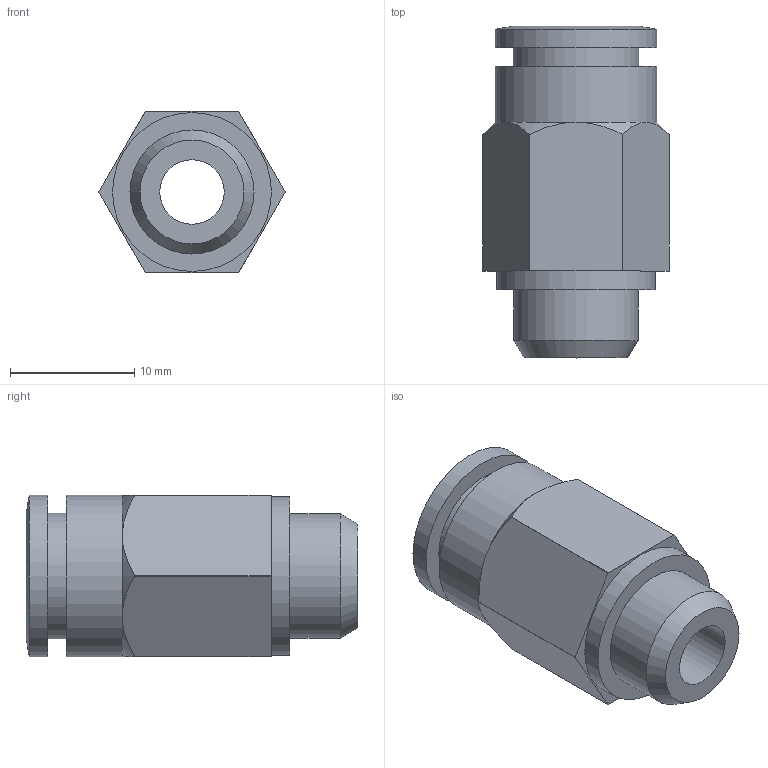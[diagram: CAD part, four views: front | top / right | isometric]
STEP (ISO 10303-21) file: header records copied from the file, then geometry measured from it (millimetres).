
FILE_DESCRIPTION((''),'2;1');
FILE_NAME('C:\Documents and Settings\rivolro1\Documenti\copia di Raccordi\T01XXXX\T010818.stp','2007-10-30T15:14:26',('Rivolro1'),(''),'Autodesk Inventor 2008','Autodesk Inventor 2008','');
FILE_SCHEMA(('AUTOMOTIVE_DESIGN { 1 0 10303 214 1 1 1 1 }'));
Length unit declared in the file: millimetre
Products named in the file (1): T010818
Bounding box: 15 x 26.75 x 13 mm (x, y, z)
Volume: 2143 mm3; surface area: 2005.1 mm2
Topology: 1 solids, 1 shells, 34 faces, 72 edges, 45 vertices
Faces by surface type: plane 13, cylinder 12, cone 8, bspline 1
Full cylindrical faces by diameter (mm): 8.2 x1, 10 x1, 10.1 x1, 12.8 x1, 13 x2
Entity records: 919 total; most frequent: CARTESIAN_POINT 184, DIRECTION 152, ORIENTED_EDGE 126, AXIS2_PLACEMENT_3D 67, EDGE_CURVE 63, EDGE_LOOP 50, VERTEX_POINT 45, FACE_OUTER_BOUND 34
